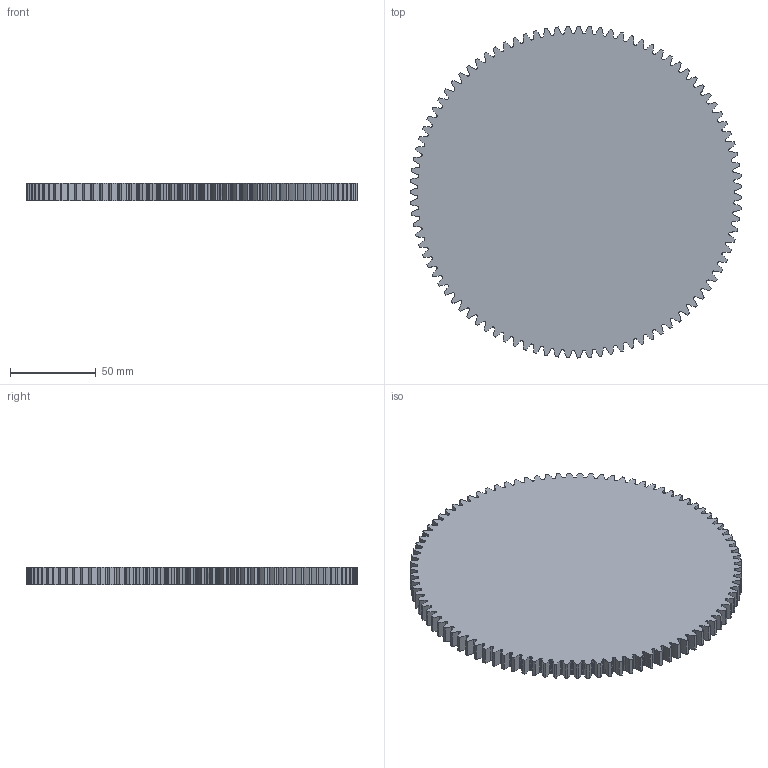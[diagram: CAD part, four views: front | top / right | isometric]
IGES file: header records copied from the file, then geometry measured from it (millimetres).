
Start section:  PTC IGES file: /lan1/usrdaten/sto/markra/proe_daten/Zahnrad.igs
Global section: file name: /lan1/usrdaten/sto/markra/proe_daten/Zahnrad.igs; native system: Pro/ENGINEER by Parametric Technology Corporation; preprocessor: 2001200; author: markra; organization: Unknown; date: 030902.110451; units: millimetre
Bounding box: 193.97 x 193.99 x 10 mm (x, y, z)
Surface area: 68252.6 mm2 (no closed solid volume)
Topology: 0 solids, 0 shells, 572 faces, 3420 edges, 3420 vertices
Faces by surface type: bspline 572
